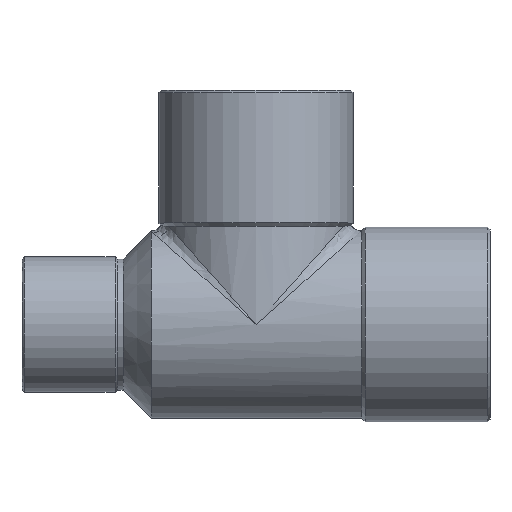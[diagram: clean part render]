
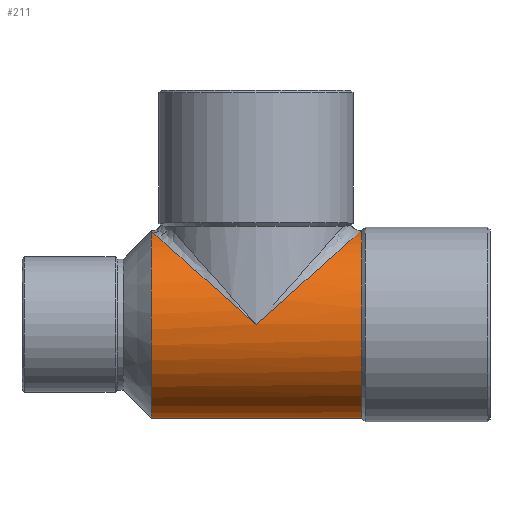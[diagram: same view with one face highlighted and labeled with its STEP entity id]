
A CAD part, top view. The second image highlights one B-rep face of the part: STEP entity #211.
In plain terms, the highlighted cylindrical face has radius 8 mm (diameter 16 mm), a partial arc.
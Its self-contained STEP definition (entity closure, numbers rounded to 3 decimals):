
#49=CARTESIAN_POINT('',(9.026,8.,0.));
#50=VERTEX_POINT('',#49);
#59=CARTESIAN_POINT('',(9.026,-8.,0.));
#60=VERTEX_POINT('',#59);
#61=CARTESIAN_POINT('',(9.026,0.,0.0));
#62=DIRECTION('',(-1.0,0.0,0.0));
#63=DIRECTION('',(0.0,1.0,0.0));
#64=AXIS2_PLACEMENT_3D('',#61,#62,#63);
#65=CIRCLE('',#64,8.);
#66=EDGE_CURVE('',#60,#50,#65,.T.);
#162=CARTESIAN_POINT('',(0.0,0.,0.0));
#163=DIRECTION('',(1.0,0.,0.0));
#164=DIRECTION('',(0.0,1.0,0.0));
#165=AXIS2_PLACEMENT_3D('',#162,#163,#164);
#166=CYLINDRICAL_SURFACE('',#165,8.);
#167=CARTESIAN_POINT('',(9.,8.,0.));
#168=VERTEX_POINT('',#167);
#169=CARTESIAN_POINT('',(9.,8.,0.));
#170=DIRECTION('',(1.0,0.0,0.0));
#171=VECTOR('',#170,0.026);
#172=LINE('',#169,#171);
#173=EDGE_CURVE('',#168,#50,#172,.T.);
#174=ORIENTED_EDGE('',*,*,#173,.F.);
#175=CARTESIAN_POINT('',(0.,0.,8.));
#176=VERTEX_POINT('',#175);
#177=CARTESIAN_POINT('',(0.,0.,0.0));
#178=DIRECTION('',(-0.664,0.747,0.));
#179=DIRECTION('',(0.747,0.664,0.0));
#180=AXIS2_PLACEMENT_3D('',#177,#178,#179);
#181=ELLIPSE('',#180,12.042,8.);
#182=EDGE_CURVE('',#176,#168,#181,.T.);
#183=ORIENTED_EDGE('',*,*,#182,.F.);
#184=CARTESIAN_POINT('',(-8.945,7.951,0.886));
#185=VERTEX_POINT('',#184);
#186=CARTESIAN_POINT('',(0.,0.,0.0));
#187=DIRECTION('',(0.664,0.747,0.));
#188=DIRECTION('',(-0.747,0.664,0.0));
#189=AXIS2_PLACEMENT_3D('',#186,#187,#188);
#190=ELLIPSE('',#189,12.042,8.);
#191=EDGE_CURVE('',#185,#176,#190,.T.);
#192=ORIENTED_EDGE('',*,*,#191,.F.);
#193=CARTESIAN_POINT('',(-8.945,-8.,0.));
#194=VERTEX_POINT('',#193);
#195=CARTESIAN_POINT('',(-8.945,0.,0.0));
#196=DIRECTION('',(1.0,0.0,0.0));
#197=DIRECTION('',(0.0,1.0,0.0));
#198=AXIS2_PLACEMENT_3D('',#195,#196,#197);
#199=CIRCLE('',#198,8.);
#200=EDGE_CURVE('',#185,#194,#199,.T.);
#201=ORIENTED_EDGE('',*,*,#200,.T.);
#202=CARTESIAN_POINT('',(9.026,-8.,0.));
#203=DIRECTION('',(-1.0,0.0,0.0));
#204=VECTOR('',#203,17.971);
#205=LINE('',#202,#204);
#206=EDGE_CURVE('',#60,#194,#205,.T.);
#207=ORIENTED_EDGE('',*,*,#206,.F.);
#208=ORIENTED_EDGE('',*,*,#66,.T.);
#209=EDGE_LOOP('',(#174,#183,#192,#201,#207,#208));
#210=FACE_OUTER_BOUND('',#209,.T.);
#211=ADVANCED_FACE('',(#210),#166,.T.);
